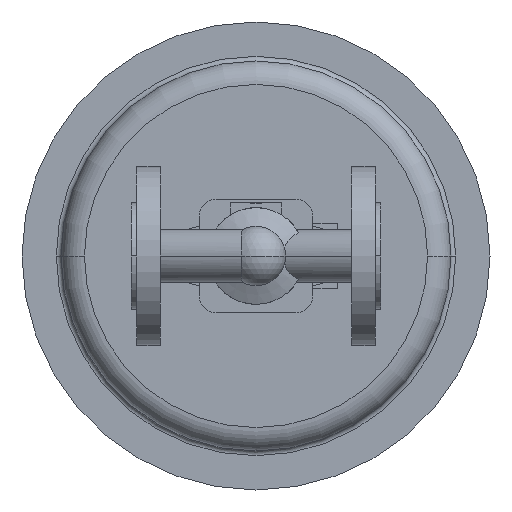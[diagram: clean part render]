
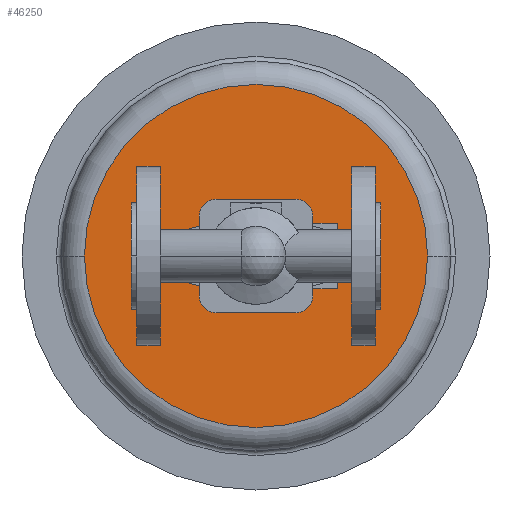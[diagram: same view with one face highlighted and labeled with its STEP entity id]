
A CAD part, front view. The second image highlights one B-rep face of the part: STEP entity #46250.
In plain terms, the highlighted planar face has unit normal (0, -1, 0).
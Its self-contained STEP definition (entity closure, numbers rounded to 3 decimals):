
#45470=CARTESIAN_POINT('',(61.55,541.,0.));
#45480=VERTEX_POINT('',#45470);
#45510=CARTESIAN_POINT('',(80.,541.,0.));
#45520=DIRECTION('',(0.,1.,0.));
#45530=DIRECTION('',(1.,0.,0.));
#45540=AXIS2_PLACEMENT_3D('',#45510,#45520,#45530);
#45550=CIRCLE('',#45540,18.45);
#45560=CARTESIAN_POINT('',(98.45,541.,0.));
#45570=VERTEX_POINT('',#45560);
#45580=EDGE_CURVE('',#45480,#45570,#45550,.T.);
#45700=CARTESIAN_POINT('',(135.,541.,0.));
#45710=DIRECTION('',(0.,-1.,0.));
#45720=DIRECTION('',(-1.,0.,0.));
#45730=AXIS2_PLACEMENT_3D('',#45700,#45710,#45720);
#45740=PLANE('',#45730);
#45750=ORIENTED_EDGE('',*,*,#45580,.T.);
#45760=EDGE_CURVE('',#45570,#45480,#45550,.T.);
#45770=ORIENTED_EDGE('',*,*,#45760,.T.);
#45780=EDGE_LOOP('',(#45770,#45750));
#45790=FACE_BOUND('',#45780,.T.);
#45800=CARTESIAN_POINT('',(30.,541.,0.));
#45810=DIRECTION('',(0.,1.,0.));
#45820=DIRECTION('',(1.,0.,0.));
#45830=AXIS2_PLACEMENT_3D('',#45800,#45810,#45820);
#45840=CIRCLE('',#45830,15.);
#45850=CARTESIAN_POINT('',(45.,541.,0.));
#45860=VERTEX_POINT('',#45850);
#45870=CARTESIAN_POINT('',(15.,541.,0.));
#45880=VERTEX_POINT('',#45870);
#45890=EDGE_CURVE('',#45860,#45880,#45840,.T.);
#45900=ORIENTED_EDGE('',*,*,#45890,.T.);
#45910=EDGE_CURVE('',#45880,#45860,#45840,.T.);
#45920=ORIENTED_EDGE('',*,*,#45910,.T.);
#45930=EDGE_LOOP('',(#45920,#45900));
#45940=FACE_BOUND('',#45930,.T.);
#45950=CARTESIAN_POINT('',(130.,541.,0.));
#45960=DIRECTION('',(0.,1.,0.));
#45970=DIRECTION('',(1.,0.,0.));
#45980=AXIS2_PLACEMENT_3D('',#45950,#45960,#45970);
#45990=CIRCLE('',#45980,15.);
#46000=CARTESIAN_POINT('',(145.,541.,0.));
#46010=VERTEX_POINT('',#46000);
#46020=CARTESIAN_POINT('',(115.,541.,0.));
#46030=VERTEX_POINT('',#46020);
#46040=EDGE_CURVE('',#46010,#46030,#45990,.T.);
#46050=ORIENTED_EDGE('',*,*,#46040,.T.);
#46060=EDGE_CURVE('',#46030,#46010,#45990,.T.);
#46070=ORIENTED_EDGE('',*,*,#46060,.T.);
#46080=EDGE_LOOP('',(#46070,#46050));
#46090=FACE_BOUND('',#46080,.T.);
#46100=CARTESIAN_POINT('',(80.,541.,0.));
#46110=DIRECTION('',(0.,1.,0.));
#46120=DIRECTION('',(1.,0.,0.));
#46130=AXIS2_PLACEMENT_3D('',#46100,#46110,#46120);
#46140=CIRCLE('',#46130,110.);
#46150=CARTESIAN_POINT('',(190.,541.,0.));
#46160=VERTEX_POINT('',#46150);
#46170=CARTESIAN_POINT('',(-30.,541.,0.));
#46180=VERTEX_POINT('',#46170);
#46190=EDGE_CURVE('',#46160,#46180,#46140,.T.);
#46200=ORIENTED_EDGE('',*,*,#46190,.F.);
#46210=EDGE_CURVE('',#46180,#46160,#46140,.T.);
#46220=ORIENTED_EDGE('',*,*,#46210,.F.);
#46230=EDGE_LOOP('',(#46220,#46200));
#46240=FACE_OUTER_BOUND('',#46230,.T.);
#46250=ADVANCED_FACE('',(#45790,#45940,#46090,#46240),#45740,.T.);
